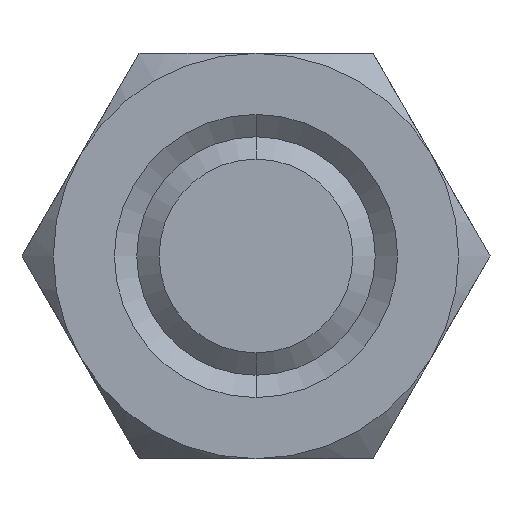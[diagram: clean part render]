
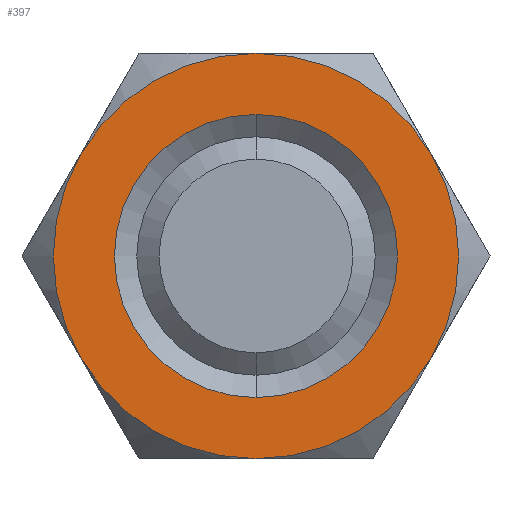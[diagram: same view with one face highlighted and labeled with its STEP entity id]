
A CAD part, front view. The second image highlights one B-rep face of the part: STEP entity #397.
In plain terms, the highlighted planar face has unit normal (0, -1, 0).
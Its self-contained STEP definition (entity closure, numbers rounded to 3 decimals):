
#381 = VERTEX_POINT ( 'NONE', #13709 ) ;
#382 = VERTEX_POINT ( 'NONE', #13773 ) ;
#384 = EDGE_LOOP ( 'NONE', ( #389, #387, #8586, #8583, #8597, #405 ) ) ;
#385 = EDGE_CURVE ( 'NONE', #381, #386, #13772, .T. ) ;
#386 = VERTEX_POINT ( 'NONE', #13767 ) ;
#387 = ORIENTED_EDGE ( 'NONE', *, *, #385, .F. ) ;
#388 = EDGE_CURVE ( 'NONE', #386, #390, #13766, .T. ) ;
#389 = ORIENTED_EDGE ( 'NONE', *, *, #388, .F. ) ;
#390 = VERTEX_POINT ( 'NONE', #13761 ) ;
#397 = ADVANCED_FACE ( 'NONE', ( #13745, #13744 ), #13743, .F. ) ;
#401 = EDGE_CURVE ( 'NONE', #14590, #14587, #13795, .T. ) ;
#402 = ORIENTED_EDGE ( 'NONE', *, *, #401, .F. ) ;
#403 = EDGE_LOOP ( 'NONE', ( #402, #10064 ) ) ;
#404 = EDGE_CURVE ( 'NONE', #390, #8598, #13790, .T. ) ;
#405 = ORIENTED_EDGE ( 'NONE', *, *, #404, .F. ) ;
#7980 = CARTESIAN_POINT ( 'NONE',  ( 0., 0., -5.937 ) ) ;
#7981 = DIRECTION ( 'NONE',  ( 0., 0., -1. ) ) ;
#7982 = DIRECTION ( 'NONE',  ( 0., -1., 0. ) ) ;
#7983 = CARTESIAN_POINT ( 'NONE',  ( 0., 0., 0. ) ) ;
#7984 = AXIS2_PLACEMENT_3D ( 'NONE', #7983, #7982, #7981 ) ;
#7985 = CIRCLE ( 'NONE', #7984, 5.937 ) ;
#7996 = CARTESIAN_POINT ( 'NONE',  ( 0., 0., 5.937 ) ) ;
#8578 = EDGE_CURVE ( 'NONE', #8593, #382, #14047, .T. ) ;
#8583 = ORIENTED_EDGE ( 'NONE', *, *, #8578, .F. ) ;
#8586 = ORIENTED_EDGE ( 'NONE', *, *, #8588, .F. ) ;
#8588 = EDGE_CURVE ( 'NONE', #382, #381, #14033, .T. ) ;
#8593 = VERTEX_POINT ( 'NONE', #14023 ) ;
#8595 = EDGE_CURVE ( 'NONE', #8593, #8598, #13279, .T. ) ;
#8597 = ORIENTED_EDGE ( 'NONE', *, *, #8595, .T. ) ;
#8598 = VERTEX_POINT ( 'NONE', #14076 ) ;
#10064 = ORIENTED_EDGE ( 'NONE', *, *, #14589, .F. ) ;
#13279 = CIRCLE ( 'NONE', #14080, 8.5 ) ;
#13709 = CARTESIAN_POINT ( 'NONE',  ( -7.361, 0., 4.25 ) ) ;
#13742 = AXIS2_PLACEMENT_3D ( 'NONE', #13801, #13800, #13799 ) ;
#13743 = PLANE ( 'NONE',  #13742 ) ;
#13744 = FACE_BOUND ( 'NONE', #403, .T. ) ;
#13745 = FACE_OUTER_BOUND ( 'NONE', #384, .T. ) ;
#13761 = CARTESIAN_POINT ( 'NONE',  ( 7.361, 0., 4.25 ) ) ;
#13762 = DIRECTION ( 'NONE',  ( 0., 0., 1. ) ) ;
#13763 = DIRECTION ( 'NONE',  ( 0., 1., 0. ) ) ;
#13764 = CARTESIAN_POINT ( 'NONE',  ( 0., 0., 0. ) ) ;
#13765 = AXIS2_PLACEMENT_3D ( 'NONE', #13764, #13763, #13762 ) ;
#13766 = CIRCLE ( 'NONE', #13765, 8.5 ) ;
#13767 = CARTESIAN_POINT ( 'NONE',  ( 0., 0., 8.5 ) ) ;
#13768 = DIRECTION ( 'NONE',  ( 0., 0., 1. ) ) ;
#13769 = DIRECTION ( 'NONE',  ( 0., 1., 0. ) ) ;
#13770 = CARTESIAN_POINT ( 'NONE',  ( 0., 0., 0. ) ) ;
#13771 = AXIS2_PLACEMENT_3D ( 'NONE', #13770, #13769, #13768 ) ;
#13772 = CIRCLE ( 'NONE', #13771, 8.5 ) ;
#13773 = CARTESIAN_POINT ( 'NONE',  ( -7.361, 0., -4.25 ) ) ;
#13786 = DIRECTION ( 'NONE',  ( 0., 0., 1. ) ) ;
#13787 = DIRECTION ( 'NONE',  ( 0., 1., 0. ) ) ;
#13788 = CARTESIAN_POINT ( 'NONE',  ( 0., 0., 0. ) ) ;
#13789 = AXIS2_PLACEMENT_3D ( 'NONE', #13788, #13787, #13786 ) ;
#13790 = CIRCLE ( 'NONE', #13789, 8.5 ) ;
#13791 = DIRECTION ( 'NONE',  ( 0., 0., -1. ) ) ;
#13792 = DIRECTION ( 'NONE',  ( 0., -1., 0. ) ) ;
#13793 = CARTESIAN_POINT ( 'NONE',  ( 0., 0., 0. ) ) ;
#13794 = AXIS2_PLACEMENT_3D ( 'NONE', #13793, #13792, #13791 ) ;
#13795 = CIRCLE ( 'NONE', #13794, 5.937 ) ;
#13799 = DIRECTION ( 'NONE',  ( 0., 0., 1. ) ) ;
#13800 = DIRECTION ( 'NONE',  ( 0., 1., 0. ) ) ;
#13801 = CARTESIAN_POINT ( 'NONE',  ( 9.815, 0., 0. ) ) ;
#13991 = CARTESIAN_POINT ( 'NONE',  ( 0., 0., 0. ) ) ;
#14023 = CARTESIAN_POINT ( 'NONE',  ( 0., 0., -8.5 ) ) ;
#14030 = DIRECTION ( 'NONE',  ( 0., 0., 1. ) ) ;
#14031 = DIRECTION ( 'NONE',  ( 0., 1., 0. ) ) ;
#14032 = AXIS2_PLACEMENT_3D ( 'NONE', #14042, #14031, #14030 ) ;
#14033 = CIRCLE ( 'NONE', #14032, 8.5 ) ;
#14042 = CARTESIAN_POINT ( 'NONE',  ( 0., 0., 0. ) ) ;
#14044 = DIRECTION ( 'NONE',  ( 0., 0., 1. ) ) ;
#14045 = DIRECTION ( 'NONE',  ( 0., 1., 0. ) ) ;
#14046 = AXIS2_PLACEMENT_3D ( 'NONE', #13991, #14045, #14044 ) ;
#14047 = CIRCLE ( 'NONE', #14046, 8.5 ) ;
#14076 = CARTESIAN_POINT ( 'NONE',  ( 7.361, 0., -4.25 ) ) ;
#14077 = DIRECTION ( 'NONE',  ( 0., 0., -1. ) ) ;
#14078 = DIRECTION ( 'NONE',  ( 0., -1., 0. ) ) ;
#14079 = CARTESIAN_POINT ( 'NONE',  ( 0., 0., 0. ) ) ;
#14080 = AXIS2_PLACEMENT_3D ( 'NONE', #14079, #14078, #14077 ) ;
#14587 = VERTEX_POINT ( 'NONE', #7996 ) ;
#14589 = EDGE_CURVE ( 'NONE', #14587, #14590, #7985, .T. ) ;
#14590 = VERTEX_POINT ( 'NONE', #7980 ) ;
